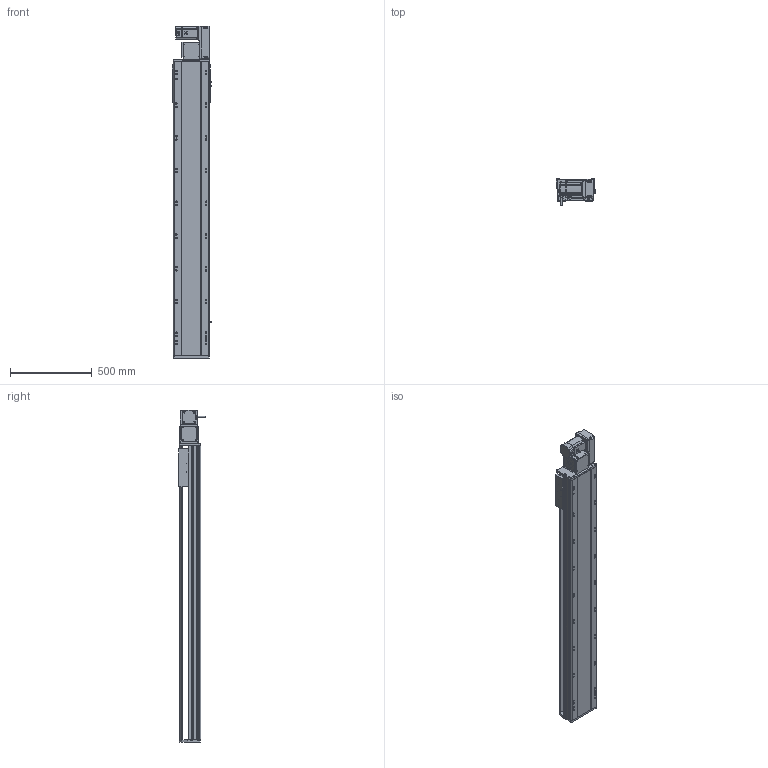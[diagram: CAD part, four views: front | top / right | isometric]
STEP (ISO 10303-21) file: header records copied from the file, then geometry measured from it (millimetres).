
FILE_DESCRIPTION (( 'STEP AP214' ), '1' );
FILE_NAME ('RTB22S-XX-1450-R-M75-C4.STEP', '2025-12-12T07:22:11', ( '' ), ( '' ), 'SwSTEP 2.0', 'SolidWorks 2018', '' );
FILE_SCHEMA (( 'AUTOMOTIVE_DESIGN' ));
Length unit declared in the file: millimetre
Products named in the file (14): RTH22-GY-013外置感应片^RTB22S-XX-XX-R-M75-C4; RTB22S-GY-005P^RTB22S-R-々湍釱蚾饜_RTB22S-XX-XX-R-M75-C4; RTB22S-GY-014--々湍釱^RTB22S-R-々湍釱蚾饜_RTB22S-XX-XX-R-M75-C4; RTB22S-L-011菁釱^RTB22S-XX-XX-R-M75-C4; RTB22S-L-004賑釱^RTB22S-XX-XX-R-M75-C4; 750W萇儂^RTB22S-XX-XX-R-M75-C4; RTB22S-GY-018P^RTB22S-R-々湍釱蚾饜_RTB22S-XX-XX-R-M75-C4; RTB22S-R-々湍釱蚾饜^RTB22S-XX-XX-R-M75-C4; RTB22S-GY-001耜裔^RTB22S-XX-XX-R-M75-C4; RTB22S-GY-008-M75--萇儂啣^RTB22S-R-々湍釱蚾饜_RTB22S-XX-XX-R-M75-C4; RTB22S-XX-1450-R-M75-C4; RTB22S-GY-007奻裔^RTB22S-XX-XX-R-M75-C4; OMRON EE-SX672 传感器^RTB22S-XX-XX-R-M75-C4; RTB22S-GY-017P^RTB22S-R-々湍釱蚾饜_RTB22S-XX-XX-R-M75-C4
Assembly tree (16 placements, depth 3):
  RTB22S-XX-1450-R-M75-C4
    RTB22S-L-011菁釱^RTB22S-XX-XX-R-M75-C4
    RTB22S-GY-001耜裔^RTB22S-XX-XX-R-M75-C4
    750W萇儂^RTB22S-XX-XX-R-M75-C4
    RTB22S-GY-007奻裔^RTB22S-XX-XX-R-M75-C4
    RTB22S-L-004賑釱^RTB22S-XX-XX-R-M75-C4
    RTH22-GY-013外置感应片^RTB22S-XX-XX-R-M75-C4
    OMRON EE-SX672 传感器^RTB22S-XX-XX-R-M75-C4  x3
    RTB22S-R-々湍釱蚾饜^RTB22S-XX-XX-R-M75-C4
      RTB22S-GY-014--々湍釱^RTB22S-R-々湍釱蚾饜_RTB22S-XX-XX-R-M75-C4
      RTB22S-GY-017P^RTB22S-R-々湍釱蚾饜_RTB22S-XX-XX-R-M75-C4  x2
      RTB22S-GY-005P^RTB22S-R-々湍釱蚾饜_RTB22S-XX-XX-R-M75-C4
      RTB22S-GY-008-M75--萇儂啣^RTB22S-R-々湍釱蚾饜_RTB22S-XX-XX-R-M75-C4
      RTB22S-GY-018P^RTB22S-R-々湍釱蚾饜_RTB22S-XX-XX-R-M75-C4
Bounding box: 238.5 x 162.7 x 2029 mm (x, y, z)
Volume: 26527767 mm3; surface area: 2741778.6 mm2
Topology: 15 solids, 15 shells, 2019 faces, 5486 edges, 3512 vertices
Faces by surface type: plane 919, cylinder 646, bspline 296, cone 146, sphere 8, torus 4
Entity records: 54084 total; most frequent: CARTESIAN_POINT 15468, ORIENTED_EDGE 7744, DIRECTION 7486, EDGE_CURVE 3872, AXIS2_PLACEMENT_3D 2654, VERTEX_POINT 2516, LINE 2178, VECTOR 2178
